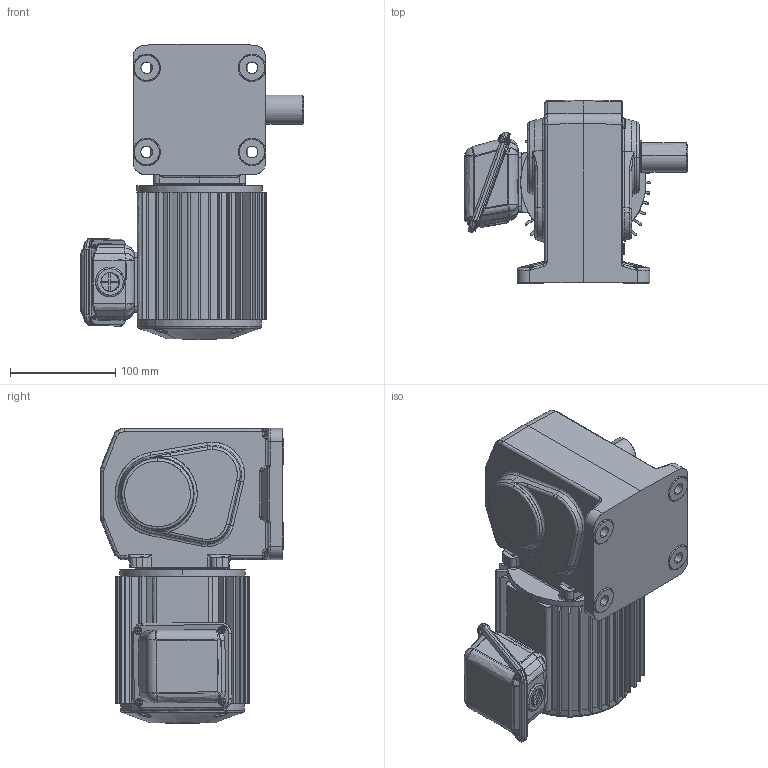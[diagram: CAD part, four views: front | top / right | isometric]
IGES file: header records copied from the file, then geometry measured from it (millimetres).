
Start section: SolidWorks IGES file using analytic representation for surfaces
Global section: file name: \\100.100.100.8\1_共有作業フォルダ\1-5_３Ｄデータ\solidworks\personal-folder\H.Nagayama\HL外形\HL(3D)\igs\TMHL-02-(80~240)B.IGS; native system: SolidWorks 2018; preprocessor: SolidWorks 2018; author: sigma-giken; date: 200324.171641; units: millimetre
Bounding box: 212 x 174.5 x 281 mm (x, y, z)
Surface area: 397957 mm2 (no closed solid volume)
Topology: 0 solids, 0 shells, 1481 faces, 18220 edges, 18155 vertices
Faces by surface type: bspline 746, revolution 735
